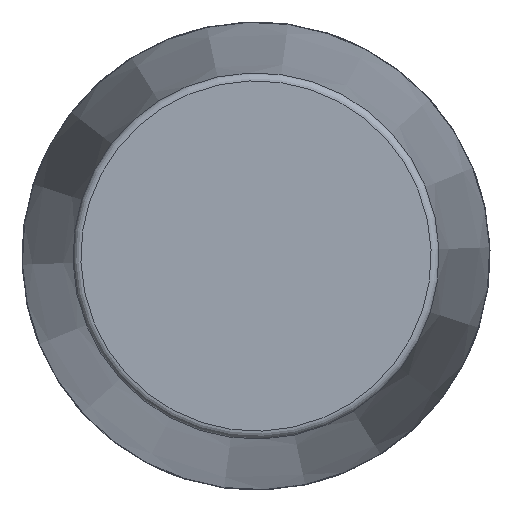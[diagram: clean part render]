
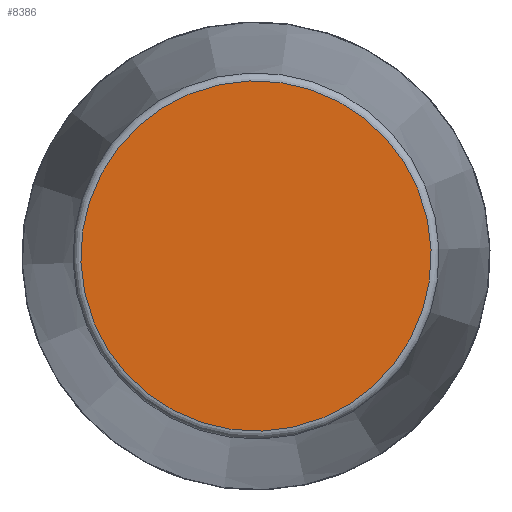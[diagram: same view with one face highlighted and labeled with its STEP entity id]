
A CAD part, front view. The second image highlights one B-rep face of the part: STEP entity #8386.
In plain terms, the highlighted planar face has unit normal (0, -1, 0) as drawn and (1, 0, 0) by its records, which use the part's own axes.
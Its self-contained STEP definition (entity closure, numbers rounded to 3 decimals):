
#2311=PLANE('',#8734);
#2879=FACE_OUTER_BOUND('',#3423,.T.);
#3423=EDGE_LOOP('',(#7890));
#3464=CIRCLE('',#8730,110.348);
#4284=VERTEX_POINT('',#15937);
#5489=EDGE_CURVE('',#4284,#4284,#3464,.T.);
#7890=ORIENTED_EDGE('',*,*,#5489,.F.);
#8386=ADVANCED_FACE('',(#2879),#2311,.T.);
#8730=AXIS2_PLACEMENT_3D('',#15938,#9968,#9969);
#8734=AXIS2_PLACEMENT_3D('',#15944,#9976,#9977);
#9968=DIRECTION('center_axis',(-1.,0.,0.));
#9969=DIRECTION('ref_axis',(0.,0.,1.));
#9976=DIRECTION('center_axis',(1.,0.,0.));
#9977=DIRECTION('ref_axis',(0.,0.,-1.));
#15937=CARTESIAN_POINT('',(542.5,0.,-110.348));
#15938=CARTESIAN_POINT('Origin',(542.5,0.,0.));
#15944=CARTESIAN_POINT('Origin',(542.5,0.,0.));
